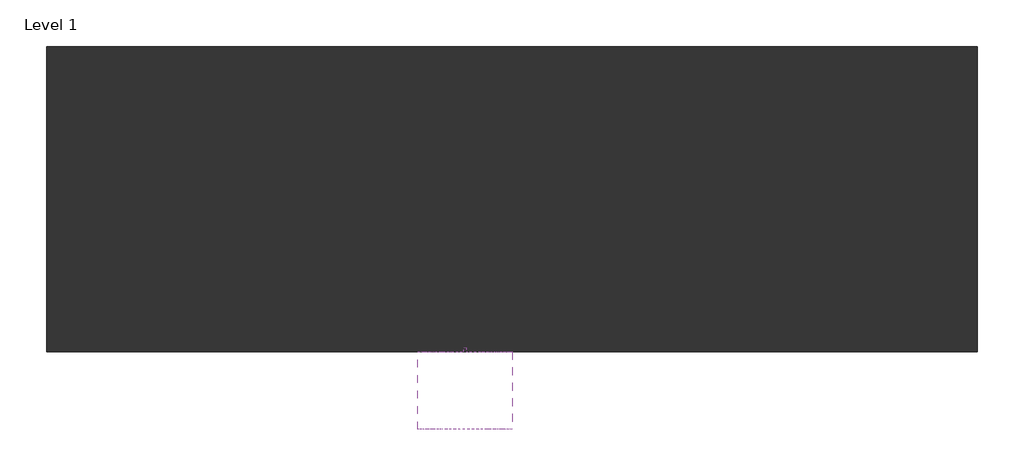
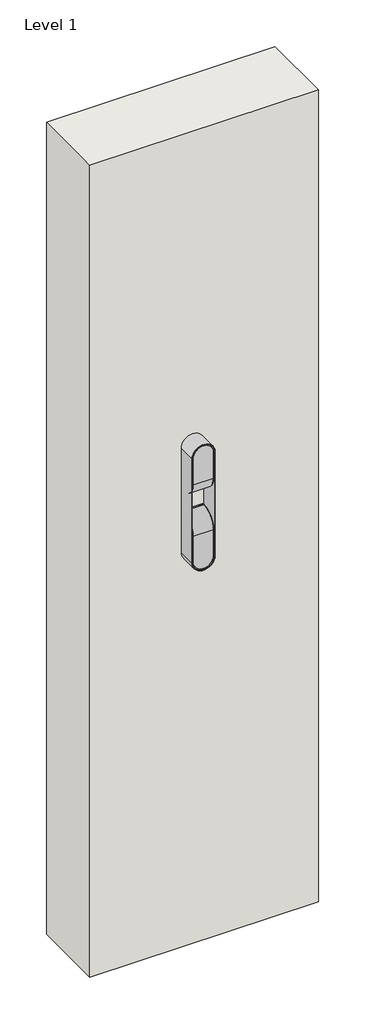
# One storey: 1 light fixture, 1 wall.
"""IFC4 building model written with IfcOpenShell, lengths in millimetres."""

import ifcopenshell
import ifcopenshell.guid

model = None  # the IFC model being written
_history = None  # IfcOwnerHistory: only IFC2X3 demands one
_inside = {}  # id of a spatial element -> (the spatial element, [elements in it])
_under = {}  # id of a project, library or spatial element -> (it, [spatial elements below it])
_declared = {}  # id of a project -> (the project, [libraries it declares])
_typed = {}  # id of a type object -> (the type object, [elements of that type])
_made_of = {}  # id of a material, layer set ... -> (it, [elements and type objects made of it])


def new_model(schema):
    """Start an empty IFC model of exactly this schema.

    Asked for "IFC4X3", IfcOpenShell would pick the latest addendum, in which some entities
    have other attributes; the version numbers below select the first issue.
    IFC2X3 requires an IfcOwnerHistory on every rooted entity: one is made here for all.
    """
    global model, _history
    if schema == "IFC4X3":
        model = ifcopenshell.file(schema_version=(4, 3, 0, 0))
    else:
        model = ifcopenshell.file(schema=schema)
    _inside.clear()
    _under.clear()
    _declared.clear()
    _typed.clear()
    _made_of.clear()
    _history = None
    if model.schema == "IFC2X3":
        org = make("IfcOrganization", Name="unknown")
        user = make(
            "IfcPersonAndOrganization",
            ThePerson=make("IfcPerson", FamilyName="unknown"),
            TheOrganization=org,
        )
        app = make(
            "IfcApplication",
            ApplicationDeveloper=org,
            Version="unknown",
            ApplicationFullName="unknown",
            ApplicationIdentifier="unknown",
        )
        _history = make(
            "IfcOwnerHistory",
            OwningUser=user,
            OwningApplication=app,
            ChangeAction="ADDED",
            CreationDate=0,
        )
    return model


def make(cls, **values):
    """One entity of the class cls with the attributes given. An attribute that is None is left unset."""
    return model.create_entity(
        cls, **{name: value for name, value in values.items() if value is not None}
    )


def rooted(cls, **values):
    """An entity with a GlobalId (a new one), such as an element, a storey or a relation."""
    return make(cls, GlobalId=ifcopenshell.guid.new(), OwnerHistory=_history, **values)


def si_unit(unit_type, name, prefix=None):
    """IfcSIUnit, for example si_unit("LENGTHUNIT", "METRE", prefix="MILLI")."""
    return make("IfcSIUnit", UnitType=unit_type, Prefix=prefix, Name=name)


def assignment(units):
    """IfcUnitAssignment: the units of a project."""
    return None if units is None else make("IfcUnitAssignment", Units=units)


def point(xyz):
    """IfcCartesianPoint."""
    return None if xyz is None else make("IfcCartesianPoint", Coordinates=xyz)


def direction(xyz):
    """IfcDirection."""
    return None if xyz is None else make("IfcDirection", DirectionRatios=xyz)


def frame(location, z_axis=None, x_axis=None):
    """IfcAxis2Placement3D, a coordinate frame: its origin and axes. An axis left out is left unset."""
    return make(
        "IfcAxis2Placement3D",
        Location=point(location),
        Axis=direction(z_axis),
        RefDirection=direction(x_axis),
    )


def frame_2d(location, x_axis=None):
    """IfcAxis2Placement2D, a coordinate frame in the plane: its origin and x axis."""
    return make(
        "IfcAxis2Placement2D", Location=point(location), RefDirection=direction(x_axis)
    )


def origin():
    """The frame at (0, 0, 0) with its axes left unset."""
    return frame((0.0, 0.0, 0.0))


def origin_with_axes():
    """The frame at (0, 0, 0) with the z axis (0, 0, 1) and the x axis (1, 0, 0) written out."""
    return frame((0.0, 0.0, 0.0), z_axis=(0.0, 0.0, 1.0), x_axis=(1.0, 0.0, 0.0))


def place(relative_to, where):
    """IfcLocalPlacement: puts the frame where relative to a parent placement (None: the world)."""
    return make(
        "IfcLocalPlacement", PlacementRelTo=relative_to, RelativePlacement=where
    )


def context(
    kind, dimensions, precision=None, world=None, true_north=None, identifier=None
):
    """IfcGeometricRepresentationContext, for example the 3D "Model" context."""
    return make(
        "IfcGeometricRepresentationContext",
        ContextIdentifier=identifier,
        ContextType=kind,
        CoordinateSpaceDimension=dimensions,
        Precision=precision,
        WorldCoordinateSystem=world,
        TrueNorth=true_north,
    )


def project(units=None, contexts=None):
    """IfcProject with its units and contexts."""
    return rooted(
        "IfcProject",
        Name="project",
        RepresentationContexts=contexts,
        UnitsInContext=assignment(units),
    )


def spatial(cls, under=None, at=None, **own):
    """A site, building, storey or space (cls), placed at a placement, below another one or the project."""
    s = rooted(cls, ObjectPlacement=at, **own)
    if under is not None:
        _under.setdefault(under.id(), (under, []))[1].append(s)
    return s


def polyline(points):
    """IfcPolyline through the points."""
    return make("IfcPolyline", Points=[point(p) for p in points])


def circle_curve(where, radius):
    """IfcCircle in the frame where."""
    return make("IfcCircle", Position=where, Radius=radius)


def ellipse_curve(where, semi_axis1, semi_axis2):
    """IfcEllipse in the frame where."""
    return make(
        "IfcEllipse", Position=where, SemiAxis1=semi_axis1, SemiAxis2=semi_axis2
    )


def trimmed(basis, trim1, trim2, sense, master):
    """IfcTrimmedCurve: the piece of a basis curve between two trims."""
    return make(
        "IfcTrimmedCurve",
        BasisCurve=basis,
        Trim1=trim1,
        Trim2=trim2,
        SenseAgreement=sense,
        MasterRepresentation=master,
    )


def segment(curve, same_sense, transition):
    """IfcCompositeCurveSegment."""
    return make(
        "IfcCompositeCurveSegment",
        Transition=transition,
        SameSense=same_sense,
        ParentCurve=curve,
    )


def composite_curve(segments, self_intersect=None):
    """IfcCompositeCurve: segments joined end to end."""
    return make("IfcCompositeCurve", Segments=segments, SelfIntersect=self_intersect)


def outline(outer, holes=None, kind="AREA"):
    """IfcArbitraryClosedProfileDef: a profile drawn as a closed curve; with holes, ...WithVoids."""
    if holes is None:
        return make("IfcArbitraryClosedProfileDef", ProfileType=kind, OuterCurve=outer)
    return make(
        "IfcArbitraryProfileDefWithVoids",
        ProfileType=kind,
        OuterCurve=outer,
        InnerCurves=holes,
    )


def extrude(swept, where, along, depth):
    """IfcExtrudedAreaSolid: the profile swept, set in the frame where, extruded along a direction by depth."""
    return make(
        "IfcExtrudedAreaSolid",
        SweptArea=swept,
        Position=where,
        ExtrudedDirection=direction(along),
        Depth=depth,
    )


def shape(context_of_items, identifier, shape_type, items):
    """IfcShapeRepresentation: the items that make up one representation, for example the "Body"."""
    return make(
        "IfcShapeRepresentation",
        ContextOfItems=context_of_items,
        RepresentationIdentifier=identifier,
        RepresentationType=shape_type,
        Items=items,
    )


def source(mapping_origin, context_of_items, identifier, shape_type, items):
    """IfcRepresentationMap: a shape defined once, which mapped items show again and again."""
    return make(
        "IfcRepresentationMap",
        MappingOrigin=mapping_origin,
        MappedRepresentation=shape(context_of_items, identifier, shape_type, items),
    )


def transform(
    local_origin,
    x_axis=None,
    y_axis=None,
    z_axis=None,
    scale=None,
    scale2=None,
    scale3=None,
    uniform=True,
):
    """IfcCartesianTransformationOperator3D, or its non-uniform kind. x_axis, y_axis, z_axis: its Axis1, 2, 3."""
    if uniform:
        return make(
            "IfcCartesianTransformationOperator3D",
            Axis1=direction(x_axis),
            Axis2=direction(y_axis),
            LocalOrigin=point(local_origin),
            Scale=scale,
            Axis3=direction(z_axis),
        )
    return make(
        "IfcCartesianTransformationOperator3DnonUniform",
        Axis1=direction(x_axis),
        Axis2=direction(y_axis),
        LocalOrigin=point(local_origin),
        Scale=scale,
        Axis3=direction(z_axis),
        Scale2=scale2,
        Scale3=scale3,
    )


def mapped(mapping_source, mapping_target):
    """IfcMappedItem: shows the shape of a source again, moved by a transform."""
    return make(
        "IfcMappedItem", MappingSource=mapping_source, MappingTarget=mapping_target
    )


def made_of(thing, what):
    """Note that an element or type object is made of a material, layer set ...; save() writes the relation."""
    if what is not None:
        _made_of.setdefault(what.id(), (what, []))[1].append(thing)
    return thing


def element(
    cls,
    number,
    at=None,
    inside=None,
    cuts=None,
    type_object=None,
    material=None,
    context=None,
    identifier="Body",
    shape_type=None,
    held_by="IfcProductDefinitionShape",
    body=None,
    shapes=None,
    **own,
):
    """One element of the class cls, such as IfcWall. Its Tag is "e" and its number.

    at: its placement. inside: the storey or other place that contains it. cuts: it is an
    opening in that element (IfcRelVoidsElement). A single representation is given by context,
    identifier, shape_type and body (its items); several are given by shapes. held_by: the class
    of the entity that holds the representations. save() writes the other relations.
    """
    e = rooted(cls, Tag="e%d" % number, ObjectPlacement=at, **own)
    if body is not None:
        shapes = [shape(context, identifier, shape_type, body)]
    if shapes is not None:
        e.Representation = make(held_by, Representations=shapes)
    if inside is not None:
        _inside.setdefault(inside.id(), (inside, []))[1].append(e)
    if cuts is not None:
        rooted(
            "IfcRelVoidsElement", RelatingBuildingElement=cuts, RelatedOpeningElement=e
        )
    if type_object is not None:
        _typed.setdefault(type_object.id(), (type_object, []))[1].append(e)
    return made_of(e, material)


def aggregate(whole, parts):
    """IfcRelAggregates: a whole, such as a stair, and the parts it consists of."""
    return rooted("IfcRelAggregates", RelatingObject=whole, RelatedObjects=parts)


def save(model, path):
    """Write the relations noted so far, then the file.

    IfcRelAggregates (storeys below a building ...), IfcRelContainedInSpatialStructure (elements
    in a storey), IfcRelDefinesByType, IfcRelAssociatesMaterial and IfcRelDeclares: one each for
    every whole, place, type object, material and project.
    """
    for whole, parts in _under.values():
        aggregate(whole, parts)
    for where, things in _inside.values():
        rooted(
            "IfcRelContainedInSpatialStructure",
            RelatedElements=things,
            RelatingStructure=where,
        )
    for kind, things in _typed.values():
        rooted("IfcRelDefinesByType", RelatedObjects=things, RelatingType=kind)
    for what, things in _made_of.values():
        rooted("IfcRelAssociatesMaterial", RelatedObjects=things, RelatingMaterial=what)
    for by, libraries in _declared.values():
        rooted("IfcRelDeclares", RelatingContext=by, RelatedDefinitions=libraries)
    model.write(path)


def plane_surface(at):
    """IfcPlane: the flat surface through the origin of the frame at, square to its z axis."""
    return make("IfcPlane", Position=at)


def cylinder_surface(at, radius):
    """IfcCylindricalSurface: all points at the distance radius from the z axis of the frame at."""
    return make("IfcCylindricalSurface", Position=at, Radius=radius)


def revolved_surface(curve, axis_point, axis_direction):
    """IfcSurfaceOfRevolution: the curve turned about the line through axis_point along axis_direction."""
    return make(
        "IfcSurfaceOfRevolution",
        SweptCurve=make("IfcArbitraryOpenProfileDef", ProfileType="CURVE", Curve=curve),
        AxisPosition=make("IfcAxis1Placement", Location=point(axis_point), Axis=direction(axis_direction)),
    )


def advanced_brep(points, edges, surfaces, faces):
    """IfcAdvancedBrep: a solid bounded by faces that lie on surfaces and meet in shared edges.

    An edge is (start, end): straight between two places in points (the first is 0);
    or (start, end, curve); or (start, end, curve, False) where it runs against its curve.
    A face is (place in surfaces, loops), or (place, loops, False) where it looks against
    its surface's normal. A loop lists edges by number (the first is 1), with a minus sign
    where the edge is run from its end to its start. The first loop is the outer one.
    """
    corners = [point(p) for p in points]
    vertices = [make("IfcVertexPoint", VertexGeometry=c) for c in corners]
    made = []
    for start, end, *more in edges:
        made.append(
            make(
                "IfcEdgeCurve",
                EdgeStart=vertices[start],
                EdgeEnd=vertices[end],
                EdgeGeometry=more[0] if more else make("IfcPolyline", Points=[corners[start], corners[end]]),
                SameSense=more[1] if len(more) > 1 else True,
            )
        )
    hull = []
    for where, loops, *sense in faces:
        bounds = []
        for j, loop in enumerate(loops):
            ring = [make("IfcOrientedEdge", EdgeElement=made[abs(k) - 1], Orientation=k > 0) for k in loop]
            bounds.append(
                make(
                    "IfcFaceOuterBound" if j == 0 else "IfcFaceBound",
                    Bound=make("IfcEdgeLoop", EdgeList=ring),
                    Orientation=True,
                )
            )
        hull.append(make("IfcAdvancedFace", Bounds=bounds, FaceSurface=surfaces[where], SameSense=sense[0] if sense else True))
    return make("IfcAdvancedBrep", Outer=make("IfcClosedShell", CfsFaces=hull))


def light_fixture_add33a23(model_context):
    return source(origin(), model_context, "Body", "SolidModel", [
        extrude(outline(composite_curve([segment(polyline([(49.2125, 255.5380216), (49.2125, 53.975)]), True, "CONTINUOUS"), segment(trimmed(circle_curve(frame_2d((46.0375, 53.975)), 3.175), [point((49.2125, 53.975))], [point((46.0375, 50.8))], False, "CARTESIAN"), True, "CONTINUOUS"), segment(polyline([(46.0375, 50.8), (-46.0375, 50.8)]), True, "CONTINUOUS"), segment(trimmed(circle_curve(frame_2d((-46.0375, 53.975)), 3.175), [point((-46.0375, 50.8))], [point((-49.2125, 53.975))], False, "CARTESIAN"), True, "CONTINUOUS"), segment(polyline([(-49.2125, 53.975), (-49.2125, 255.5380216)]), True, "CONTINUOUS"), segment(trimmed(circle_curve(frame_2d((0.0, 255.5380216)), 49.2125), [point((-49.2125, 255.5380216))], [point((49.2125, 255.5380216))], False, "CARTESIAN"), True, "CONTINUOUS")], self_intersect=False)), origin_with_axes(), (0.0, 0.0, 1.0), 8.0899),
        extrude(outline(composite_curve([segment(trimmed(circle_curve(frame_2d((0.0, -255.5380216)), 49.2125), [point((49.2125, -255.5380216))], [point((-49.2125, -255.5380216))], False, "CARTESIAN"), True, "CONTINUOUS"), segment(polyline([(-49.2125, -255.5380216), (-49.2125, -53.975)]), True, "CONTINUOUS"), segment(trimmed(circle_curve(frame_2d((-46.0375, -53.975)), 3.175), [point((-49.2125, -53.975))], [point((-46.0375, -50.8))], False, "CARTESIAN"), True, "CONTINUOUS"), segment(polyline([(-46.0375, -50.8), (46.0375, -50.8)]), True, "CONTINUOUS"), segment(trimmed(circle_curve(frame_2d((46.0375, -53.975)), 3.175), [point((46.0375, -50.8))], [point((49.2125, -53.975))], False, "CARTESIAN"), True, "CONTINUOUS"), segment(polyline([(49.2125, -53.975), (49.2125, -255.5380216)]), True, "CONTINUOUS")], self_intersect=False)), origin_with_axes(), (0.0, 0.0, 1.0), 8.0899),
        advanced_brep(
        [(46.0375, -225.3263207, 87.4649), (46.0375, -127.0, 87.4649), (-46.0375, -127.0, 87.4649), (-46.0375, -225.3263207, 87.4649), (-46.0375, -255.5380216, 87.4649), (46.0375, -255.5380216, 87.4649), (49.2125, -225.3263207, 84.2899), (49.2125, -127.0, 84.2899), (49.2125, -255.5380216, 84.2899), (49.2125, -255.5380216, 8.0899), (49.2125, -53.975, 8.0899), (49.2125, -53.975, 11.2649), (-49.2125, -225.3263207, 84.2899), (-49.2125, -127.0, 84.2899), (-49.2125, -53.975, 11.2649), (-49.2125, -53.975, 8.0899), (-49.2125, -255.5380216, 8.0899), (-49.2125, -255.5380216, 84.2899), (46.0375, -50.8, 11.2649), (-46.0375, -50.8, 11.2649), (-46.0375, -50.8, 8.0899), (46.0375, -50.8, 8.0899)],
        [
            (0, 1),
            (1, 2),
            (2, 3),
            (3, 4),
            (4, 5, circle_curve(frame((0.0, -255.5380216, 87.4649), z_axis=(0.0, 0.0, 1.0), x_axis=(-1.0, 0.0, 0.0)), 46.0375)),
            (5, 0),
            (0, 6, circle_curve(frame((46.0375, -225.3263207, 84.2899), z_axis=(0.0, 1.0, 0.0), x_axis=(0.0, 0.0, 1.0)), 3.175)),
            (6, 7),
            (7, 1, circle_curve(frame((46.0375, -127.0, 84.2899), z_axis=(0.0, -1.0, 0.0), x_axis=(0.0, 0.0, 1.0)), 3.175)),
            (6, 8),
            (8, 9),
            (9, 10),
            (10, 11),
            (11, 7, circle_curve(frame((49.2125, -127.0, 11.2649), z_axis=(1.0, 0.0, 0.0), x_axis=(0.0, 0.0, 1.0)), 73.025)),
            (12, 13),
            (13, 14, circle_curve(frame((-49.2125, -127.0, 11.2649), z_axis=(-1.0, 0.0, 0.0), x_axis=(0.0, 0.0, 1.0)), 73.025)),
            (14, 15),
            (15, 16),
            (16, 17),
            (17, 12),
            (2, 13, circle_curve(frame((-46.0375, -127.0, 84.2899), z_axis=(0.0, -1.0, 0.0), x_axis=(0.0, 0.0, 1.0)), 3.175)),
            (12, 3, circle_curve(frame((-46.0375, -225.3263207, 84.2899), z_axis=(0.0, 1.0, 0.0), x_axis=(0.0, 0.0, 1.0)), 3.175)),
            (1, 18, circle_curve(frame((46.0375, -127.0, 11.2649), z_axis=(-1.0, 0.0, 0.0), x_axis=(0.0, 0.0, 1.0)), 76.2)),
            (18, 19),
            (19, 2, circle_curve(frame((-46.0375, -127.0, 11.2649), z_axis=(1.0, 0.0, 0.0), x_axis=(0.0, 0.0, 1.0)), 76.2)),
            (11, 18, circle_curve(frame((46.0375, -53.975, 11.2649), z_axis=(0.0, 0.0, 1.0), x_axis=(0.0, 1.0, 0.0)), 3.175)),
            (19, 14, circle_curve(frame((-46.0375, -53.975, 11.2649), z_axis=(0.0, 0.0, 1.0), x_axis=(0.0, 1.0, 0.0)), 3.175)),
            (9, 16, circle_curve(frame((0.0, -255.5380216, 8.0899), z_axis=(0.0, 0.0, -1.0), x_axis=(-1.0, 0.0, 0.0)), 49.2125)),
            (15, 20, circle_curve(frame((-46.0375, -53.975, 8.0899), z_axis=(0.0, 0.0, -1.0), x_axis=(0.0, 1.0, 0.0)), 3.175)),
            (20, 21),
            (21, 10, circle_curve(frame((46.0375, -53.975, 8.0899), z_axis=(0.0, 0.0, -1.0), x_axis=(0.0, 1.0, 0.0)), 3.175)),
            (18, 21),
            (20, 19),
            (17, 4, circle_curve(frame((-46.0375, -255.5380216, 84.2899), z_axis=(0.0, 1.0, 0.0), x_axis=(1.0, 0.0, 0.0)), 3.175)),
            (8, 17, circle_curve(frame((0.0, -255.5380216, 84.2899), z_axis=(0.0, 0.0, -1.0), x_axis=(-1.0, 0.0, 0.0)), 49.2125)),
            (8, 5, circle_curve(frame((46.0375, -255.5380216, 84.2899), z_axis=(0.0, -1.0, 0.0), x_axis=(-1.0, 0.0, 0.0)), 3.175)),
        ],
        [
            plane_surface(frame((46.0375, -225.3263207, 87.4649), z_axis=(0.0, 0.0, 1.0), x_axis=(0.0, 1.0, 0.0))),
            cylinder_surface(frame((46.0375, -225.3263207, 84.2899), z_axis=(0.0, -1.0, 0.0), x_axis=(0.0, 0.0, 1.0)), 3.175),
            plane_surface(frame((49.2125, -225.3263207, 82.7024), z_axis=(1.0, 0.0, 0.0), x_axis=(0.0, 1.0, 0.0))),
            plane_surface(frame((-49.2125, -225.3263207, 84.2899), z_axis=(-1.0, 0.0, 0.0), x_axis=(0.0, 1.0, 0.0))),
            cylinder_surface(frame((-46.0375, -225.3263207, 84.2899), z_axis=(0.0, -1.0, 0.0), x_axis=(0.0, 0.0, 1.0)), 3.175),
            cylinder_surface(frame((0.0, -127.0, 11.2649), z_axis=(-1.0, 0.0, 0.0), x_axis=(0.0, 0.0, 1.0)), 76.2),
            revolved_surface(trimmed(ellipse_curve(frame((46.0375, -127.0, 84.2899), z_axis=(0.0, -1.0, 0.0), x_axis=(0.0, 0.0, 1.0)), 3.175, 3.175), [point((49.2125, -127.0, 84.2899))], [point((46.0375, -127.0, 87.4649))], True, "CARTESIAN"), (0.0, -127.0, 11.2649), (-1.0, 0.0, 0.0)),
            revolved_surface(trimmed(ellipse_curve(frame((-46.0375, -127.0, 84.2899), z_axis=(0.0, -1.0, 0.0), x_axis=(0.0, 0.0, 1.0)), 3.175, 3.175), [point((-46.0375, -127.0, 87.4649))], [point((-49.2125, -127.0, 84.2899))], True, "CARTESIAN"), (0.0, -127.0, 11.2649), (-1.0, 0.0, 0.0)),
            plane_surface(frame((0.0, -50.8, 8.0899), z_axis=(0.0, 0.0, -1.0), x_axis=(1.0, 0.0, 0.0))),
            plane_surface(frame((46.0375, -50.8, 11.2649), z_axis=(0.0, 1.0, 0.0), x_axis=(0.0, 0.0, -1.0))),
            cylinder_surface(frame((46.0375, -53.975, 11.2649), z_axis=(0.0, 0.0, 1.0), x_axis=(0.0, 1.0, 0.0)), 3.175),
            cylinder_surface(frame((-46.0375, -53.975, 11.2649), z_axis=(0.0, 0.0, 1.0), x_axis=(0.0, 1.0, 0.0)), 3.175),
            cylinder_surface(frame((-46.0375, -225.3263207, 84.2899), z_axis=(0.0, 1.0, 0.0), x_axis=(1.0, 0.0, 0.0)), 3.175),
            cylinder_surface(frame((0.0, -255.5380216, 0.0), z_axis=(0.0, 0.0, 1.0), x_axis=(-1.0, 0.0, 0.0)), 49.2125),
            revolved_surface(trimmed(ellipse_curve(frame((-46.0375, -255.5380216, 84.2899), z_axis=(0.0, 1.0, 0.0), x_axis=(1.0, 0.0, 0.0)), 3.175, 3.175), [point((-49.2125, -255.5380216, 84.2899))], [point((-46.0375, -255.5380216, 87.4649))], True, "CARTESIAN"), (0.0, -255.5380216, 0.0), (0.0, 0.0, 1.0)),
            cylinder_surface(frame((46.0375, -255.5380216, 84.2899), z_axis=(0.0, -1.0, 0.0), x_axis=(-1.0, 0.0, 0.0)), 3.175),
        ],
        [
            (0, [[1, 2, 3, 4, 5, 6]]),
            (1, [[-1, 7, 8, 9]]),
            (2, [[-8, 10, 11, 12, 13, 14]]),
            (3, [[15, 16, 17, 18, 19, 20]]),
            (4, [[-3, 21, -15, 22]]),
            (5, [[-2, 23, 24, 25]]),
            (6, [[-9, -14, 26, -23]]),
            (7, [[-16, -21, -25, 27]]),
            (8, [[-12, 28, -18, 29, 30, 31]]),
            (9, [[-24, 32, -30, 33]]),
            (10, [[-13, -31, -32, -26]]),
            (11, [[-17, -27, -33, -29]]),
            (12, [[-20, 34, -4, -22]]),
            (13, [[-19, -28, -11, 35]]),
            (14, [[-5, -34, -35, 36]]),
            (15, [[-6, -36, -10, -7]]),
        ],
    ),
        advanced_brep(
        [(-46.0375, 225.3263207, 87.4649), (-46.0375, 127.0, 87.4649), (46.0375, 127.0, 87.4649), (46.0375, 225.3263207, 87.4649), (46.0375, 255.5380216, 87.4649), (-46.0375, 255.5380216, 87.4649), (49.2125, 127.0, 84.2899), (49.2125, 225.3263207, 84.2899), (49.2125, 53.975, 11.2649), (49.2125, 53.975, 8.0899), (49.2125, 255.5380216, 8.0899), (49.2125, 255.5380216, 84.2899), (-49.2125, 53.975, 8.0899), (-49.2125, 53.975, 11.2649), (-49.2125, 127.0, 84.2899), (-49.2125, 225.3263207, 84.2899), (-49.2125, 255.5380216, 84.2899), (-49.2125, 255.5380216, 8.0899), (-46.0375, 50.8, 11.2649), (46.0375, 50.8, 11.2649), (-46.0375, 50.8, 8.0899), (46.0375, 50.8, 8.0899)],
        [
            (0, 1),
            (1, 2),
            (2, 3),
            (3, 4),
            (4, 5, circle_curve(frame((0.0, 255.5380216, 87.4649), z_axis=(0.0, 0.0, 1.0), x_axis=(-1.0, 0.0, 0.0)), 46.0375)),
            (5, 0),
            (2, 6, circle_curve(frame((46.0375, 127.0, 84.2899), z_axis=(0.0, 1.0, 0.0), x_axis=(0.0, 0.0, -1.0)), 3.175)),
            (6, 7),
            (7, 3, circle_curve(frame((46.0375, 225.3263207, 84.2899), z_axis=(0.0, -1.0, 0.0), x_axis=(0.0, 0.0, -1.0)), 3.175)),
            (6, 8, circle_curve(frame((49.2125, 127.0, 11.2649), z_axis=(1.0, 0.0, 0.0), x_axis=(0.0, 0.0, 1.0)), 73.025)),
            (8, 9),
            (9, 10),
            (10, 11),
            (11, 7),
            (12, 13),
            (13, 14, circle_curve(frame((-49.2125, 127.0, 11.2649), z_axis=(-1.0, 0.0, 0.0), x_axis=(0.0, 0.0, 1.0)), 73.025)),
            (14, 15),
            (15, 16),
            (16, 17),
            (17, 12),
            (0, 15, circle_curve(frame((-46.0375, 225.3263207, 84.2899), z_axis=(0.0, -1.0, 0.0), x_axis=(0.0, 0.0, -1.0)), 3.175)),
            (14, 1, circle_curve(frame((-46.0375, 127.0, 84.2899), z_axis=(0.0, 1.0, 0.0), x_axis=(0.0, 0.0, -1.0)), 3.175)),
            (1, 18, circle_curve(frame((-46.0375, 127.0, 11.2649), z_axis=(1.0, 0.0, 0.0), x_axis=(0.0, 0.0, 1.0)), 76.2)),
            (18, 19),
            (19, 2, circle_curve(frame((46.0375, 127.0, 11.2649), z_axis=(-1.0, 0.0, 0.0), x_axis=(0.0, 0.0, 1.0)), 76.2)),
            (19, 8, circle_curve(frame((46.0375, 53.975, 11.2649), z_axis=(0.0, 0.0, 1.0), x_axis=(0.0, 1.0, 0.0)), 3.175)),
            (13, 18, circle_curve(frame((-46.0375, 53.975, 11.2649), z_axis=(0.0, 0.0, 1.0), x_axis=(0.0, 1.0, 0.0)), 3.175)),
            (20, 12, circle_curve(frame((-46.0375, 53.975, 8.0899), z_axis=(0.0, 0.0, -1.0), x_axis=(0.0, 1.0, 0.0)), 3.175)),
            (17, 10, circle_curve(frame((0.0, 255.5380216, 8.0899), z_axis=(0.0, 0.0, -1.0), x_axis=(-1.0, 0.0, 0.0)), 49.2125)),
            (9, 21, circle_curve(frame((46.0375, 53.975, 8.0899), z_axis=(0.0, 0.0, -1.0), x_axis=(0.0, 1.0, 0.0)), 3.175)),
            (21, 20),
            (18, 20),
            (21, 19),
            (5, 16, circle_curve(frame((-46.0375, 255.5380216, 84.2899), z_axis=(0.0, -1.0, 0.0), x_axis=(-1.0, 0.0, 0.0)), 3.175)),
            (16, 11, circle_curve(frame((0.0, 255.5380216, 84.2899), z_axis=(0.0, 0.0, -1.0), x_axis=(-1.0, 0.0, 0.0)), 49.2125)),
            (4, 11, circle_curve(frame((46.0375, 255.5380216, 84.2899), z_axis=(0.0, 1.0, 0.0), x_axis=(1.0, 0.0, 0.0)), 3.175)),
        ],
        [
            plane_surface(frame((-46.0375, 225.3263207, 87.4649), z_axis=(0.0, 0.0, 1.0), x_axis=(0.0, -1.0, 0.0))),
            cylinder_surface(frame((46.0375, 225.3263207, 84.2899), z_axis=(0.0, 1.0, 0.0), x_axis=(0.0, 0.0, -1.0)), 3.175),
            plane_surface(frame((49.2125, 225.3263207, 84.2899), z_axis=(1.0, 0.0, 0.0), x_axis=(0.0, -1.0, 0.0))),
            plane_surface(frame((-49.2125, 225.3263207, 82.7024), z_axis=(-1.0, 0.0, 0.0), x_axis=(0.0, -1.0, 0.0))),
            cylinder_surface(frame((-46.0375, 225.3263207, 84.2899), z_axis=(0.0, 1.0, 0.0), x_axis=(0.0, 0.0, -1.0)), 3.175),
            cylinder_surface(frame((0.0, 127.0, 11.2649), z_axis=(1.0, 0.0, 0.0), x_axis=(0.0, 0.0, 1.0)), 76.2),
            revolved_surface(trimmed(ellipse_curve(frame((46.0375, 127.0, 84.2899), z_axis=(0.0, 1.0, 0.0), x_axis=(0.0, 0.0, -1.0)), 3.175, 3.175), [point((46.0375, 127.0, 87.4649))], [point((49.2125, 127.0, 84.2899))], True, "CARTESIAN"), (0.0, 127.0, 11.2649), (1.0, 0.0, 0.0)),
            revolved_surface(trimmed(ellipse_curve(frame((-46.0375, 127.0, 84.2899), z_axis=(0.0, 1.0, 0.0), x_axis=(0.0, 0.0, -1.0)), 3.175, 3.175), [point((-49.2125, 127.0, 84.2899))], [point((-46.0375, 127.0, 87.4649))], True, "CARTESIAN"), (0.0, 127.0, 11.2649), (1.0, 0.0, 0.0)),
            plane_surface(frame((0.0, 50.8, 8.0899), z_axis=(0.0, 0.0, -1.0), x_axis=(1.0, 0.0, 0.0))),
            plane_surface(frame((-46.0375, 50.8, 11.2649), z_axis=(0.0, -1.0, 0.0), x_axis=(0.0, 0.0, -1.0))),
            cylinder_surface(frame((46.0375, 53.975, 11.2649), z_axis=(0.0, 0.0, 1.0), x_axis=(0.0, 1.0, 0.0)), 3.175),
            cylinder_surface(frame((-46.0375, 53.975, 11.2649), z_axis=(0.0, 0.0, 1.0), x_axis=(0.0, 1.0, 0.0)), 3.175),
            cylinder_surface(frame((-46.0375, 225.3263207, 84.2899), z_axis=(0.0, -1.0, 0.0), x_axis=(-1.0, 0.0, 0.0)), 3.175),
            cylinder_surface(frame((0.0, 255.5380216, 0.0), z_axis=(0.0, 0.0, -1.0), x_axis=(-1.0, 0.0, 0.0)), 49.2125),
            revolved_surface(trimmed(ellipse_curve(frame((-46.0375, 255.5380216, 84.2899), z_axis=(0.0, -1.0, 0.0), x_axis=(-1.0, 0.0, 0.0)), 3.175, 3.175), [point((-46.0375, 255.5380216, 87.4649))], [point((-49.2125, 255.5380216, 84.2899))], True, "CARTESIAN"), (0.0, 255.5380216, 0.0), (0.0, 0.0, -1.0)),
            cylinder_surface(frame((46.0375, 255.5380216, 84.2899), z_axis=(0.0, 1.0, 0.0), x_axis=(1.0, 0.0, 0.0)), 3.175),
        ],
        [
            (0, [[1, 2, 3, 4, 5, 6]]),
            (1, [[-3, 7, 8, 9]]),
            (2, [[-8, 10, 11, 12, 13, 14]]),
            (3, [[15, 16, 17, 18, 19, 20]]),
            (4, [[-1, 21, -17, 22]]),
            (5, [[-2, 23, 24, 25]]),
            (6, [[-7, -25, 26, -10]]),
            (7, [[-16, 27, -23, -22]]),
            (8, [[28, -20, 29, -12, 30, 31]]),
            (9, [[-24, 32, -31, 33]]),
            (10, [[-11, -26, -33, -30]]),
            (11, [[-15, -28, -32, -27]]),
            (12, [[-18, -21, -6, 34]]),
            (13, [[-19, 35, -13, -29]]),
            (14, [[-5, 36, -35, -34]]),
            (15, [[-4, -9, -14, -36]]),
        ],
    ),
        extrude(outline(composite_curve([segment(trimmed(circle_curve(frame_2d((0.0, 255.5378906)), 53.975), [point((-53.975, 255.5378906))], [point((53.975, 255.5378906))], False, "CARTESIAN"), True, "CONTINUOUS"), segment(polyline([(53.975, 255.5378906), (53.975, -255.5378906)]), True, "CONTINUOUS"), segment(trimmed(circle_curve(frame_2d((0.0, -255.5378906)), 53.975), [point((53.975, -255.5378906))], [point((-53.975, -255.5378906))], False, "CARTESIAN"), True, "CONTINUOUS"), segment(polyline([(-53.975, -255.5378906), (-53.975, 255.5378906)]), True, "CONTINUOUS")], self_intersect=False), holes=[composite_curve([segment(polyline([(-50.8, 255.5378906), (-50.8, -255.5378906)]), True, "CONTINUOUS"), segment(trimmed(circle_curve(frame_2d((0.0, -255.5378906)), 50.8), [point((-50.8, -255.5378906))], [point((50.8, -255.5378906))], True, "CARTESIAN"), True, "CONTINUOUS"), segment(polyline([(50.8, -255.5378906), (50.8, 255.5378906)]), True, "CONTINUOUS"), segment(trimmed(circle_curve(frame_2d((0.0, 255.5378906)), 50.8), [point((50.8, 255.5378906))], [point((-50.8, 255.5378906))], True, "CARTESIAN"), True, "CONTINUOUS")], self_intersect=False)]), origin_with_axes(), (0.0, 0.0, 1.0), 88.9),
        extrude(outline(composite_curve([segment(trimmed(circle_curve(frame_2d((0.0, -188.9133829)), 1.3890625), [point((-1.3890625, -188.9133829))], [point((1.3890625, -188.9133829))], False, "CARTESIAN"), True, "CONTINUOUS"), segment(trimmed(circle_curve(frame_2d((0.0, -188.9133829)), 1.3890625), [point((1.3890625, -188.9133829))], [point((-1.3890625, -188.9133829))], False, "CARTESIAN"), True, "CONTINUOUS")], self_intersect=False)), frame((0.0, 0.0, -4.4233209), z_axis=(0.0, 0.0, 1.0), x_axis=(1.0, 0.0, 0.0)), (0.0, 0.0, 1.0), 4.4233209),
    ])


model = new_model("IFC4")

# Units and contexts
model_context = context("Model", 3, world=origin())
ifc_project = project(units=[si_unit("LENGTHUNIT", "METRE", prefix="MILLI")], contexts=[model_context])

# Site, building, storey
site = spatial("IfcSite", under=ifc_project)
building = spatial("IfcBuilding", under=site)
storey = spatial("IfcBuildingStorey", under=building, Name="Level 1", Elevation=0.0)

# Light fixture
placement = place(None, origin())
light_fixture_shape = light_fixture_add33a23(model_context)
element("IfcLightFixture", 1, ObjectType="Boyd_Lighting-Loop-Double_Sconce : Boyd_Lighting-Loop-Double_Sconce", at=placement, inside=storey, context=model_context, shape_type="MappedRepresentation", body=[
    mapped(light_fixture_shape, transform((-16769.8638214, 8153.0252805, 2201.7312183), x_axis=(1.0, 0.0, 0.0), y_axis=(0.0, 0.0, 1.0), z_axis=(0.0, -1.0, 0.0))),
])

# Wall
element("IfcWall", 2, ObjectType="Exterior - Brick on Mtl. Stud", at=placement, inside=storey, context=model_context, shape_type="SweptSolid", body=[
    extrude(outline(polyline([(-16182.4888214, 8153.0252805), (-17249.2888214, 8153.0252805), (-17249.2888214, 8503.0252805), (-16182.4888214, 8503.0252805), (-16182.4888214, 8153.0252805)])), origin_with_axes(), (0.0, 0.0, 1.0), 4000.0),
])

save(model, "model.ifc")
